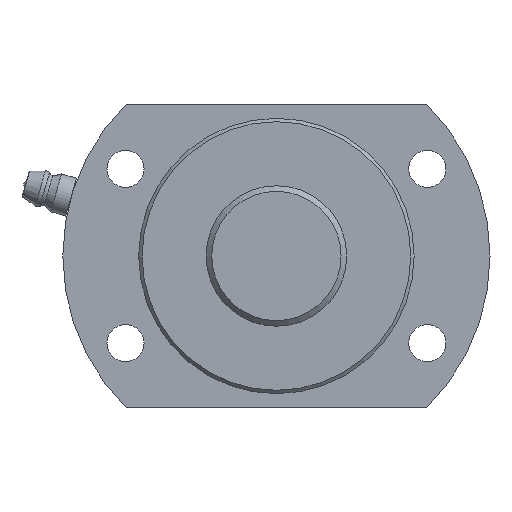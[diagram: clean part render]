
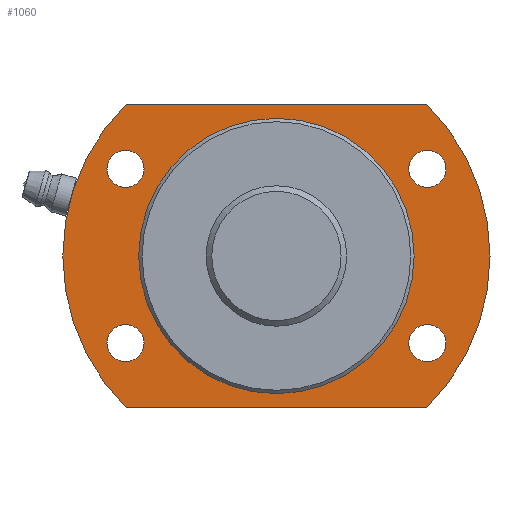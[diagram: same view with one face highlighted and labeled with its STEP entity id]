
A CAD part, left-side view. The second image highlights one B-rep face of the part: STEP entity #1060.
In plain terms, the highlighted planar face has unit normal (-1, 0, 0).
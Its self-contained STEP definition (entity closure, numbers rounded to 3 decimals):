
#551=CARTESIAN_POINT('',(486.443,0.,-24.5));
#552=VERTEX_POINT('',#551);
#553=CARTESIAN_POINT('',(486.443,0.0,0.0));
#554=DIRECTION('',(-1.0,0.0,0.0));
#555=DIRECTION('',(0.0,-1.0,0.0));
#556=AXIS2_PLACEMENT_3D('',#553,#554,#555);
#557=CIRCLE('',#556,24.5);
#558=EDGE_CURVE('',#552,#552,#557,.T.);
#692=CARTESIAN_POINT('',(486.443,-30.147,-15.5));
#693=VERTEX_POINT('',#692);
#694=CARTESIAN_POINT('',(486.443,-26.847,-15.5));
#695=DIRECTION('',(1.0,0.0,0.0));
#696=DIRECTION('',(0.0,1.0,0.0));
#697=AXIS2_PLACEMENT_3D('',#694,#695,#696);
#698=CIRCLE('',#697,3.3);
#699=EDGE_CURVE('',#693,#693,#698,.T.);
#741=CARTESIAN_POINT('',(486.443,23.547,15.5));
#742=VERTEX_POINT('',#741);
#743=CARTESIAN_POINT('',(486.443,26.847,15.5));
#744=DIRECTION('',(1.0,0.0,0.0));
#745=DIRECTION('',(0.0,1.0,0.0));
#746=AXIS2_PLACEMENT_3D('',#743,#744,#745);
#747=CIRCLE('',#746,3.3);
#748=EDGE_CURVE('',#742,#742,#747,.T.);
#790=CARTESIAN_POINT('',(486.443,23.547,-15.5));
#791=VERTEX_POINT('',#790);
#792=CARTESIAN_POINT('',(486.443,26.847,-15.5));
#793=DIRECTION('',(1.0,0.0,0.0));
#794=DIRECTION('',(0.0,1.0,0.0));
#795=AXIS2_PLACEMENT_3D('',#792,#793,#794);
#796=CIRCLE('',#795,3.3);
#797=EDGE_CURVE('',#791,#791,#796,.T.);
#839=CARTESIAN_POINT('',(486.443,-30.147,15.5));
#840=VERTEX_POINT('',#839);
#841=CARTESIAN_POINT('',(486.443,-26.847,15.5));
#842=DIRECTION('',(1.0,0.0,0.0));
#843=DIRECTION('',(0.0,1.0,0.0));
#844=AXIS2_PLACEMENT_3D('',#841,#842,#843);
#845=CIRCLE('',#844,3.3);
#846=EDGE_CURVE('',#840,#840,#845,.T.);
#932=CARTESIAN_POINT('',(486.443,-26.739,27.0));
#933=VERTEX_POINT('',#932);
#934=CARTESIAN_POINT('',(486.443,-26.739,-27.0));
#935=VERTEX_POINT('',#934);
#936=CARTESIAN_POINT('',(486.443,0.0,0.0));
#937=DIRECTION('',(1.0,0.0,0.0));
#938=DIRECTION('',(0.0,0.0,-1.0));
#939=AXIS2_PLACEMENT_3D('',#936,#937,#938);
#940=CIRCLE('',#939,38.0);
#941=EDGE_CURVE('',#933,#935,#940,.T.);
#964=CARTESIAN_POINT('',(486.443,26.739,-27.0));
#965=VERTEX_POINT('',#964);
#966=CARTESIAN_POINT('',(486.443,-26.739,-27.0));
#967=DIRECTION('',(0.0,1.0,0.0));
#968=VECTOR('',#967,53.479);
#969=LINE('',#966,#968);
#970=EDGE_CURVE('',#935,#965,#969,.T.);
#988=CARTESIAN_POINT('',(486.443,26.739,27.0));
#989=VERTEX_POINT('',#988);
#990=CARTESIAN_POINT('',(486.443,0.0,0.0));
#991=DIRECTION('',(1.0,0.0,0.0));
#992=DIRECTION('',(0.0,0.0,-1.0));
#993=AXIS2_PLACEMENT_3D('',#990,#991,#992);
#994=CIRCLE('',#993,38.0);
#995=EDGE_CURVE('',#965,#989,#994,.T.);
#1022=CARTESIAN_POINT('',(486.443,26.739,27.0));
#1023=DIRECTION('',(0.0,-1.0,0.0));
#1024=VECTOR('',#1023,53.479);
#1025=LINE('',#1022,#1024);
#1026=EDGE_CURVE('',#989,#933,#1025,.T.);
#1034=CARTESIAN_POINT('',(486.443,0.0,0.));
#1035=DIRECTION('',(1.0,0.0,0.0));
#1036=DIRECTION('',(0.0,0.0,-1.0));
#1037=AXIS2_PLACEMENT_3D('',#1034,#1035,#1036);
#1038=PLANE('',#1037);
#1039=ORIENTED_EDGE('',*,*,#941,.F.);
#1040=ORIENTED_EDGE('',*,*,#1026,.F.);
#1041=ORIENTED_EDGE('',*,*,#995,.F.);
#1042=ORIENTED_EDGE('',*,*,#970,.F.);
#1043=EDGE_LOOP('',(#1039,#1040,#1041,#1042));
#1044=FACE_OUTER_BOUND('',#1043,.T.);
#1045=ORIENTED_EDGE('',*,*,#699,.T.);
#1046=EDGE_LOOP('',(#1045));
#1047=FACE_BOUND('',#1046,.T.);
#1048=ORIENTED_EDGE('',*,*,#748,.T.);
#1049=EDGE_LOOP('',(#1048));
#1050=FACE_BOUND('',#1049,.T.);
#1051=ORIENTED_EDGE('',*,*,#797,.T.);
#1052=EDGE_LOOP('',(#1051));
#1053=FACE_BOUND('',#1052,.T.);
#1054=ORIENTED_EDGE('',*,*,#846,.T.);
#1055=EDGE_LOOP('',(#1054));
#1056=FACE_BOUND('',#1055,.T.);
#1057=ORIENTED_EDGE('',*,*,#558,.F.);
#1058=EDGE_LOOP('',(#1057));
#1059=FACE_BOUND('',#1058,.T.);
#1060=ADVANCED_FACE('',(#1044,#1047,#1050,#1053,#1056,#1059),#1038,.F.);
